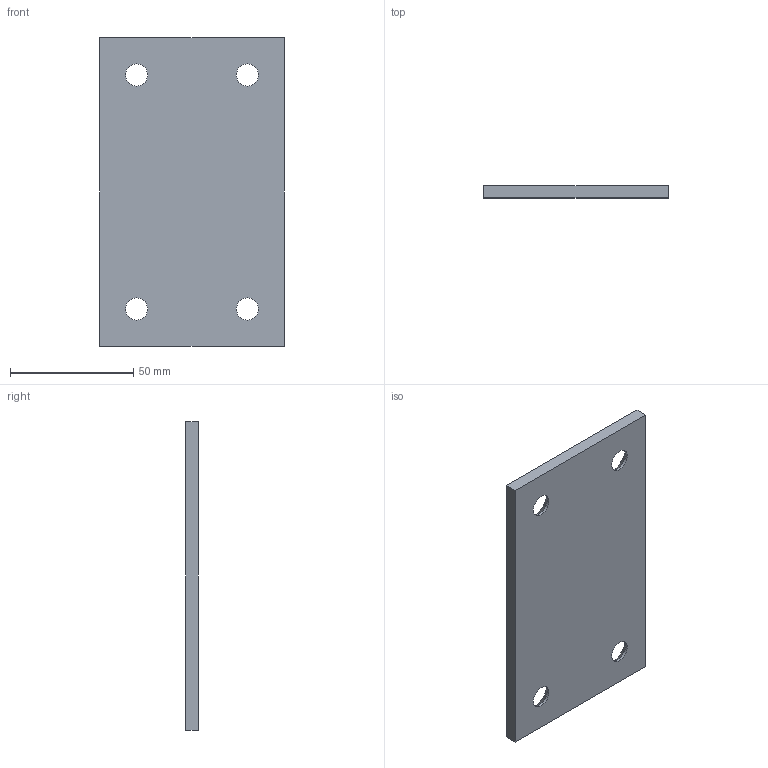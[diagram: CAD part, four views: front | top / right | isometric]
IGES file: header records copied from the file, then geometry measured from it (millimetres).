
Start section: Data from Parasolid IGES Translator 20.0.26, Copyright(c) 2006 Siemens P LM Software. All Rights Reserved.
Global section: file name: P605-01-075-125.igs; native system: By Siemens PLM Incorporated; preprocessor: XPlus GENERIC/IGES 20.0.26; author: Noname; organization: Noname; date: 20190705.150110; units: millimetre
Bounding box: 75 x 5 x 125 mm (x, y, z)
Surface area: 20624.8 mm2 (no closed solid volume)
Topology: 0 solids, 0 shells, 14 faces, 64 edges, 56 vertices
Faces by surface type: revolution 8, extrusion 6
